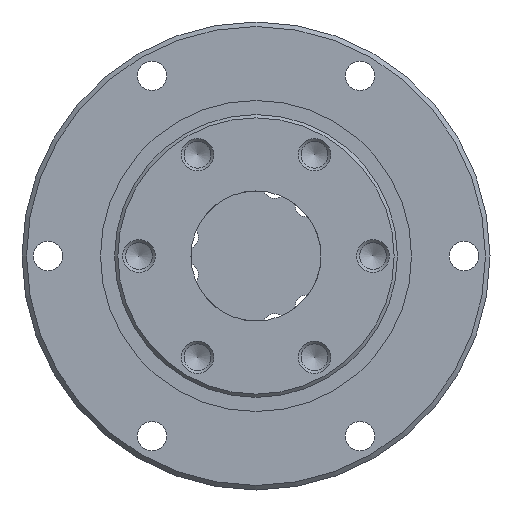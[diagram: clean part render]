
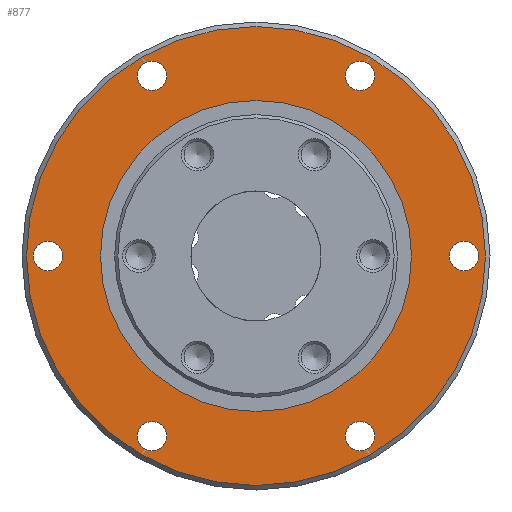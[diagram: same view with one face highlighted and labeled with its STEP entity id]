
A CAD part, left-side view. The second image highlights one B-rep face of the part: STEP entity #877.
In plain terms, the highlighted planar face has unit normal (-1, 0, 0).
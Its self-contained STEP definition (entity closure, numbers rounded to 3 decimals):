
#65=PLANE('',#1007);
#184=ORIENTED_EDGE('',*,*,#334,.F.);
#185=ORIENTED_EDGE('',*,*,#335,.F.);
#186=ORIENTED_EDGE('',*,*,#336,.F.);
#187=ORIENTED_EDGE('',*,*,#337,.F.);
#188=ORIENTED_EDGE('',*,*,#338,.F.);
#189=ORIENTED_EDGE('',*,*,#339,.F.);
#190=ORIENTED_EDGE('',*,*,#340,.F.);
#191=ORIENTED_EDGE('',*,*,#333,.T.);
#333=EDGE_CURVE('',#416,#416,#505,.T.);
#334=EDGE_CURVE('',#417,#417,#506,.T.);
#335=EDGE_CURVE('',#418,#418,#507,.F.);
#336=EDGE_CURVE('',#419,#419,#508,.F.);
#337=EDGE_CURVE('',#420,#420,#509,.F.);
#338=EDGE_CURVE('',#421,#421,#510,.F.);
#339=EDGE_CURVE('',#422,#422,#511,.F.);
#340=EDGE_CURVE('',#423,#423,#512,.F.);
#416=VERTEX_POINT('',#1528);
#417=VERTEX_POINT('',#1531);
#418=VERTEX_POINT('',#1533);
#419=VERTEX_POINT('',#1535);
#420=VERTEX_POINT('',#1537);
#421=VERTEX_POINT('',#1539);
#422=VERTEX_POINT('',#1541);
#423=VERTEX_POINT('',#1543);
#505=CIRCLE('',#1006,23.925);
#506=CIRCLE('',#1008,35.3);
#507=CIRCLE('',#1009,2.25);
#508=CIRCLE('',#1010,2.25);
#509=CIRCLE('',#1011,2.25);
#510=CIRCLE('',#1012,2.25);
#511=CIRCLE('',#1013,2.25);
#512=CIRCLE('',#1014,2.25);
#583=EDGE_LOOP('',(#184));
#584=EDGE_LOOP('',(#185));
#585=EDGE_LOOP('',(#186));
#586=EDGE_LOOP('',(#187));
#587=EDGE_LOOP('',(#188));
#588=EDGE_LOOP('',(#189));
#589=EDGE_LOOP('',(#190));
#590=EDGE_LOOP('',(#191));
#715=FACE_BOUND('',#583,.T.);
#716=FACE_BOUND('',#584,.T.);
#717=FACE_BOUND('',#585,.T.);
#718=FACE_BOUND('',#586,.T.);
#719=FACE_BOUND('',#587,.T.);
#720=FACE_BOUND('',#588,.T.);
#721=FACE_BOUND('',#589,.T.);
#722=FACE_BOUND('',#590,.T.);
#877=ADVANCED_FACE('',(#715,#716,#717,#718,#719,#720,#721,#722),#65,.F.);
#1006=AXIS2_PLACEMENT_3D('',#1527,#1228,#1229);
#1007=AXIS2_PLACEMENT_3D('',#1529,#1230,#1231);
#1008=AXIS2_PLACEMENT_3D('',#1530,#1232,#1233);
#1009=AXIS2_PLACEMENT_3D('',#1532,#1234,#1235);
#1010=AXIS2_PLACEMENT_3D('',#1534,#1236,#1237);
#1011=AXIS2_PLACEMENT_3D('',#1536,#1238,#1239);
#1012=AXIS2_PLACEMENT_3D('',#1538,#1240,#1241);
#1013=AXIS2_PLACEMENT_3D('',#1540,#1242,#1243);
#1014=AXIS2_PLACEMENT_3D('',#1542,#1244,#1245);
#1228=DIRECTION('',(1.,0.,0.));
#1229=DIRECTION('',(0.,0.,-1.));
#1230=DIRECTION('',(1.,0.,0.));
#1231=DIRECTION('',(0.,0.,-1.));
#1232=DIRECTION('',(1.,0.,0.));
#1233=DIRECTION('',(0.,0.,-1.));
#1234=DIRECTION('',(1.,0.,0.));
#1235=DIRECTION('',(0.,0.,-1.));
#1236=DIRECTION('',(1.,0.,0.));
#1237=DIRECTION('',(0.,0.,-1.));
#1238=DIRECTION('',(1.,0.,0.));
#1239=DIRECTION('',(0.,0.,-1.));
#1240=DIRECTION('',(1.,0.,0.));
#1241=DIRECTION('',(0.,0.,-1.));
#1242=DIRECTION('',(1.,0.,0.));
#1243=DIRECTION('',(0.,0.,-1.));
#1244=DIRECTION('',(1.,0.,0.));
#1245=DIRECTION('',(0.,0.,-1.));
#1527=CARTESIAN_POINT('',(12.,0.,0.));
#1528=CARTESIAN_POINT('',(12.,0.,-23.925));
#1529=CARTESIAN_POINT('',(12.,23.925,0.));
#1530=CARTESIAN_POINT('',(12.,0.,0.));
#1531=CARTESIAN_POINT('',(12.,0.,-35.3));
#1532=CARTESIAN_POINT('',(12.,32.,0.));
#1533=CARTESIAN_POINT('',(12.,32.,-2.25));
#1534=CARTESIAN_POINT('',(12.,16.,-27.713));
#1535=CARTESIAN_POINT('',(12.,16.,-29.963));
#1536=CARTESIAN_POINT('',(12.,-16.,-27.713));
#1537=CARTESIAN_POINT('',(12.,-16.,-29.963));
#1538=CARTESIAN_POINT('',(12.,-32.,0.));
#1539=CARTESIAN_POINT('',(12.,-32.,-2.25));
#1540=CARTESIAN_POINT('',(12.,-16.,27.713));
#1541=CARTESIAN_POINT('',(12.,-16.,25.463));
#1542=CARTESIAN_POINT('',(12.,16.,27.713));
#1543=CARTESIAN_POINT('',(12.,16.,25.463));
